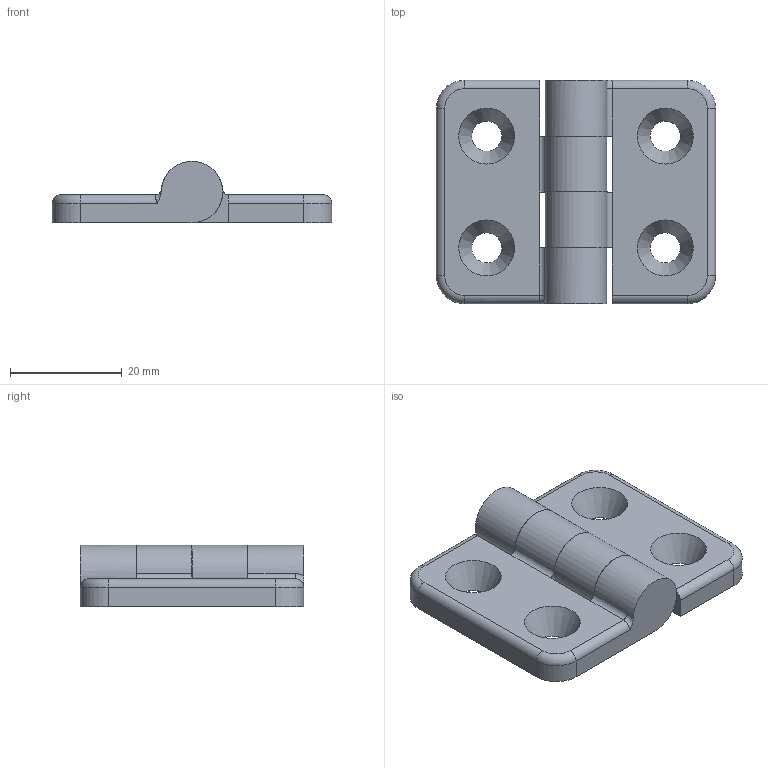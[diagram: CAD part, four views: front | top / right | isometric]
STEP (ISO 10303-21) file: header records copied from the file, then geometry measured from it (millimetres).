
FILE_DESCRIPTION(/* description */ (''),/* implementation_level */ '2;1');
FILE_NAME(/* name */ '\\NAS\db20\HS4050\DR_HS4050.stp',/* time_stamp */ '2018-08-11T16:29:42+09:00',/* author */ ('user'),/* organization */ (''),/* preprocessor_version */ 'ST-DEVELOPER v15.6',/* originating_system */ 'Autodesk Inventor 2015',/* authorisation */ '');
FILE_SCHEMA (('AUTOMOTIVE_DESIGN { 1 0 10303 214 3 1 1 }'));
Length unit declared in the file: millimetre
Products named in the file (2): DR_HS4050
Bounding box: 50 x 40 x 11 mm (x, y, z)
Volume: 10539.4 mm3; surface area: 6067.6 mm2
Topology: 2 solids, 2 shells, 52 faces, 134 edges, 86 vertices
Faces by surface type: cylinder 22, plane 20, torus 4, cone 4, bspline 2
Full cylindrical faces by diameter (mm): 5.4 x4
Entity records: 887 total; most frequent: CARTESIAN_POINT 203, DIRECTION 141, ORIENTED_EDGE 122, EDGE_CURVE 61, AXIS2_PLACEMENT_3D 54, VERTEX_POINT 41, EDGE_LOOP 34, LINE 33
